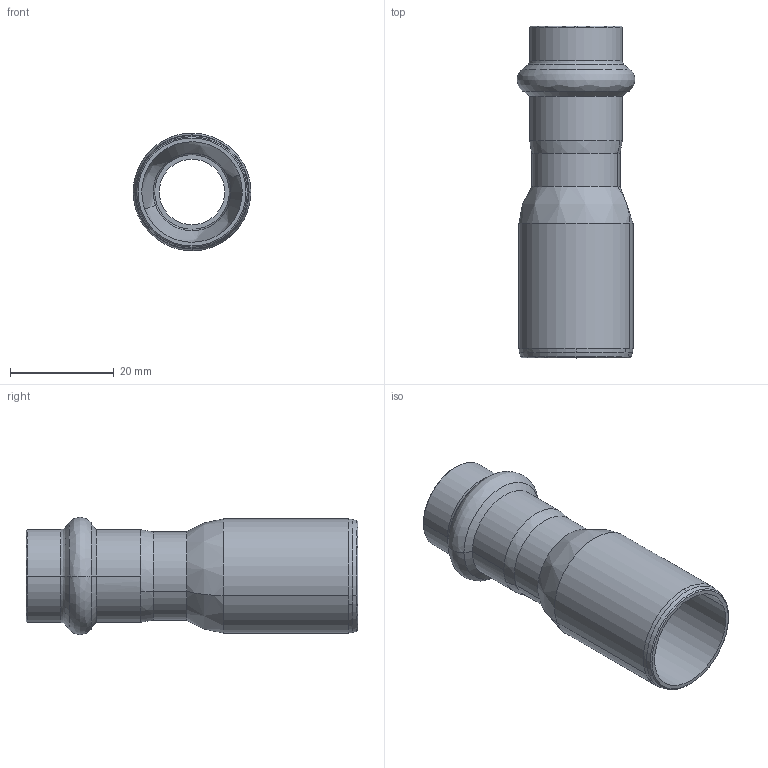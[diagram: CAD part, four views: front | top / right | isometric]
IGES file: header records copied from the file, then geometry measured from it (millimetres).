
Start section: Elysium IGES Interface
Global section: file name: C:\Users\Wallenburg\Desktop\3d modellen sudo\S-Pr VP\SP6243V\6243VW2215.igs; native system: CoCreate Modeling 17.00A  17-Jun-2010; preprocessor: CoCreate IGES_3D V2.2; author: Unknown; organization: Unknown; date: 20130123.170243; units: millimetre
Bounding box: 22.68 x 64.01 x 22.67 mm (x, y, z)
Volume: 5518.7 mm3; surface area: 7870.8 mm2
Topology: 1 solids, 1 shells, 56 faces, 124 edges, 72 vertices
Faces by surface type: bspline 56
